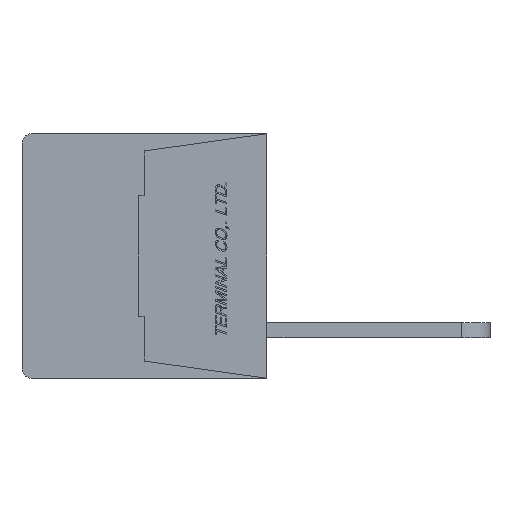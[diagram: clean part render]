
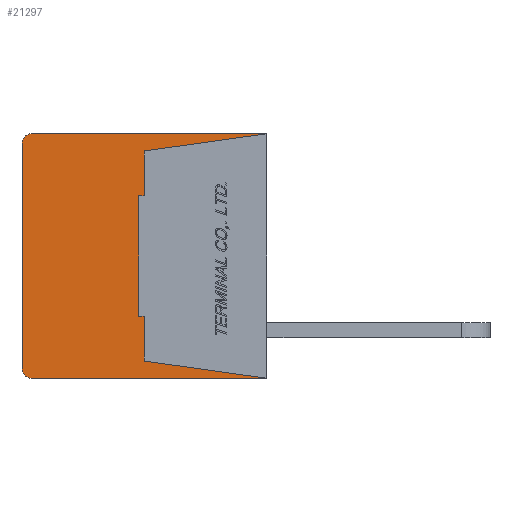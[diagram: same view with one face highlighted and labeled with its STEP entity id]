
A CAD part, left-side view. The second image highlights one B-rep face of the part: STEP entity #21297.
In plain terms, the highlighted planar face has unit normal (-1, 0, 0).
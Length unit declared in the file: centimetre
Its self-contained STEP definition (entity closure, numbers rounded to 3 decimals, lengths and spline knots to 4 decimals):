
#1121=CIRCLE('',#36364,0.05);
#1122=CIRCLE('',#36367,0.05);
#1979=VERTEX_POINT('',#29823);
#1980=VERTEX_POINT('',#29825);
#1981=VERTEX_POINT('',#29829);
#1982=VERTEX_POINT('',#29833);
#1983=VERTEX_POINT('',#29837);
#1984=VERTEX_POINT('',#29841);
#1985=VERTEX_POINT('',#29845);
#1986=VERTEX_POINT('',#29847);
#1987=VERTEX_POINT('',#29849);
#1988=VERTEX_POINT('',#29851);
#1989=VERTEX_POINT('',#29853);
#1990=VERTEX_POINT('',#29855);
#4234=VECTOR('',#24663,1.);
#4238=VECTOR('',#24672,1.);
#4241=VECTOR('',#24680,1.);
#4242=VECTOR('',#24682,1.);
#4243=VECTOR('',#24683,1.);
#4244=VECTOR('',#24684,1.);
#4245=VECTOR('',#24685,1.);
#4246=VECTOR('',#24686,1.);
#4247=VECTOR('',#24687,1.);
#4248=VECTOR('',#24688,1.);
#6731=LINE('',#29824,#4234);
#6735=LINE('',#29834,#4238);
#6738=LINE('',#29842,#4241);
#6739=LINE('',#29844,#4242);
#6740=LINE('',#29846,#4243);
#6741=LINE('',#29848,#4244);
#6742=LINE('',#29850,#4245);
#6743=LINE('',#29852,#4246);
#6744=LINE('',#29854,#4247);
#6745=LINE('',#29856,#4248);
#9526=EDGE_CURVE('',#1980,#1979,#6731,.T.);
#9529=EDGE_CURVE('',#1981,#1979,#1121,.T.);
#9531=EDGE_CURVE('',#1981,#1982,#6735,.T.);
#9533=EDGE_CURVE('',#1983,#1982,#1122,.T.);
#9535=EDGE_CURVE('',#1983,#1984,#6738,.T.);
#9536=EDGE_CURVE('',#1985,#1980,#6739,.T.);
#9537=EDGE_CURVE('',#1984,#1986,#6740,.T.);
#9538=EDGE_CURVE('',#1986,#1987,#6741,.T.);
#9539=EDGE_CURVE('',#1987,#1988,#6742,.T.);
#9540=EDGE_CURVE('',#1988,#1989,#6743,.T.);
#9541=EDGE_CURVE('',#1989,#1990,#6744,.T.);
#9542=EDGE_CURVE('',#1990,#1985,#6745,.T.);
#13914=ORIENTED_EDGE('',*,*,#9536,.T.);
#13915=ORIENTED_EDGE('',*,*,#9526,.T.);
#13916=ORIENTED_EDGE('',*,*,#9529,.F.);
#13917=ORIENTED_EDGE('',*,*,#9531,.T.);
#13918=ORIENTED_EDGE('',*,*,#9533,.F.);
#13919=ORIENTED_EDGE('',*,*,#9535,.T.);
#13920=ORIENTED_EDGE('',*,*,#9537,.T.);
#13921=ORIENTED_EDGE('',*,*,#9538,.T.);
#13922=ORIENTED_EDGE('',*,*,#9539,.T.);
#13923=ORIENTED_EDGE('',*,*,#9540,.T.);
#13924=ORIENTED_EDGE('',*,*,#9541,.T.);
#13925=ORIENTED_EDGE('',*,*,#9542,.T.);
#18547=EDGE_LOOP('',(#13914,#13915,#13916,#13917,#13918,#13919,#13920,#13921,
#13922,#13923,#13924,#13925));
#19962=FACE_BOUND('',#18547,.T.);
#21297=ADVANCED_FACE('',(#19962),#22432,.F.);
#22432=PLANE('',#36369);
#24663=DIRECTION('',(0.,1.,0.));
#24668=DIRECTION('',(1.,0.,0.));
#24669=DIRECTION('',(0.,0.,-0.05));
#24672=DIRECTION('',(0.,0.,-1.));
#24676=DIRECTION('',(1.,0.,0.));
#24677=DIRECTION('',(0.,0.,-0.05));
#24680=DIRECTION('',(0.,-1.,0.));
#24681=DIRECTION('',(1.,0.,0.));
#24682=DIRECTION('',(0.,-0.99,0.139));
#24683=DIRECTION('',(0.,0.99,0.139));
#24684=DIRECTION('',(0.,0.,1.));
#24685=DIRECTION('',(0.,1.,0.));
#24686=DIRECTION('',(0.,0.,1.));
#24687=DIRECTION('',(0.,-1.,0.));
#24688=DIRECTION('',(0.,0.,1.));
#29823=CARTESIAN_POINT('',(-1.,1.23,0.64));
#29824=CARTESIAN_POINT('',(-1.,0.,0.64));
#29825=CARTESIAN_POINT('',(-1.,0.,0.64));
#29829=CARTESIAN_POINT('',(-1.,1.28,0.59));
#29830=CARTESIAN_POINT('',(-1.,1.23,0.59));
#29833=CARTESIAN_POINT('',(-1.,1.28,-0.59));
#29834=CARTESIAN_POINT('',(-1.,1.28,0.59));
#29837=CARTESIAN_POINT('',(-1.,1.23,-0.64));
#29838=CARTESIAN_POINT('',(-1.,1.23,-0.59));
#29841=CARTESIAN_POINT('',(-1.,0.,-0.64));
#29842=CARTESIAN_POINT('',(-1.,1.23,-0.64));
#29843=CARTESIAN_POINT('',(-1.,0.6345,0.));
#29844=CARTESIAN_POINT('',(-1.,0.64,0.55));
#29845=CARTESIAN_POINT('',(-1.,0.64,0.55));
#29846=CARTESIAN_POINT('',(-1.,0.,-0.64));
#29847=CARTESIAN_POINT('',(-1.,0.64,-0.55));
#29848=CARTESIAN_POINT('',(-1.,0.64,-0.55));
#29849=CARTESIAN_POINT('',(-1.,0.64,-0.315));
#29850=CARTESIAN_POINT('',(-1.,0.64,-0.315));
#29851=CARTESIAN_POINT('',(-1.,0.67,-0.315));
#29852=CARTESIAN_POINT('',(-1.,0.67,-0.315));
#29853=CARTESIAN_POINT('',(-1.,0.67,0.315));
#29854=CARTESIAN_POINT('',(-1.,0.67,0.315));
#29855=CARTESIAN_POINT('',(-1.,0.64,0.315));
#29856=CARTESIAN_POINT('',(-1.,0.64,0.315));
#36364=AXIS2_PLACEMENT_3D('',#29830,#24668,#24669);
#36367=AXIS2_PLACEMENT_3D('',#29838,#24676,#24677);
#36369=AXIS2_PLACEMENT_3D('',#29843,#24681,$);
